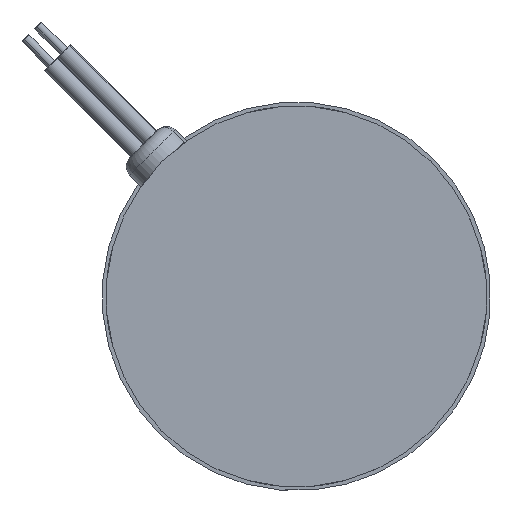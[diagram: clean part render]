
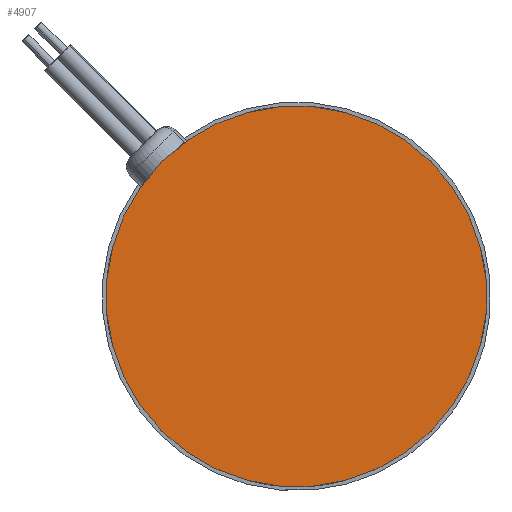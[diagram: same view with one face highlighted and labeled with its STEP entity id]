
A CAD part, left-side view. The second image highlights one B-rep face of the part: STEP entity #4907.
In plain terms, the highlighted planar face has unit normal (-1, 0, 0).
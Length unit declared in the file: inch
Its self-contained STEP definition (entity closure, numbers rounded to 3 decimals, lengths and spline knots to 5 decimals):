
#206 = ORIENTED_EDGE ( 'NONE', *, *, #2078, .F. ) ;
#967 = DIRECTION ( 'NONE',  ( 1., 0., 0. ) ) ;
#976 = VERTEX_POINT ( 'NONE', #7006 ) ;
#983 = FACE_OUTER_BOUND ( 'NONE', #5829, .T. ) ;
#1128 = EDGE_CURVE ( 'NONE', #8270, #976, #5412, .T. ) ;
#2078 = EDGE_CURVE ( 'NONE', #976, #8270, #4159, .T. ) ;
#2230 = CARTESIAN_POINT ( 'NONE',  ( -0.32797, 3.51222, 4.67391 ) ) ;
#2952 = DIRECTION ( 'NONE',  ( 1., 0., 0. ) ) ;
#4159 = CIRCLE ( 'NONE', #6052, 1.5624 ) ;
#4907 = ADVANCED_FACE ( 'NONE', ( #983 ), #9230, .F. ) ;
#4933 = CARTESIAN_POINT ( 'NONE',  ( -0.32797, 3.51222, 4.67391 ) ) ;
#5412 = CIRCLE ( 'NONE', #9234, 1.5624 ) ;
#5829 = EDGE_LOOP ( 'NONE', ( #7215, #206 ) ) ;
#6052 = AXIS2_PLACEMENT_3D ( 'NONE', #4933, #967, #7366 ) ;
#6798 = CARTESIAN_POINT ( 'NONE',  ( -0.32797, 3.51222, 4.67391 ) ) ;
#7006 = CARTESIAN_POINT ( 'NONE',  ( -0.32797, 2.40744, 5.7787 ) ) ;
#7061 = AXIS2_PLACEMENT_3D ( 'NONE', #6798, #2952, #9958 ) ;
#7215 = ORIENTED_EDGE ( 'NONE', *, *, #1128, .F. ) ;
#7366 = DIRECTION ( 'NONE',  ( 0., -0.707, 0.707 ) ) ;
#7776 = DIRECTION ( 'NONE',  ( 1., 0., 0. ) ) ;
#8196 = CARTESIAN_POINT ( 'NONE',  ( -0.32797, 4.61701, 3.56913 ) ) ;
#8270 = VERTEX_POINT ( 'NONE', #8196 ) ;
#9230 = PLANE ( 'NONE',  #7061 ) ;
#9234 = AXIS2_PLACEMENT_3D ( 'NONE', #2230, #7776, #9410 ) ;
#9410 = DIRECTION ( 'NONE',  ( 0., -0.707, 0.707 ) ) ;
#9958 = DIRECTION ( 'NONE',  ( 0., -0.707, 0.707 ) ) ;
